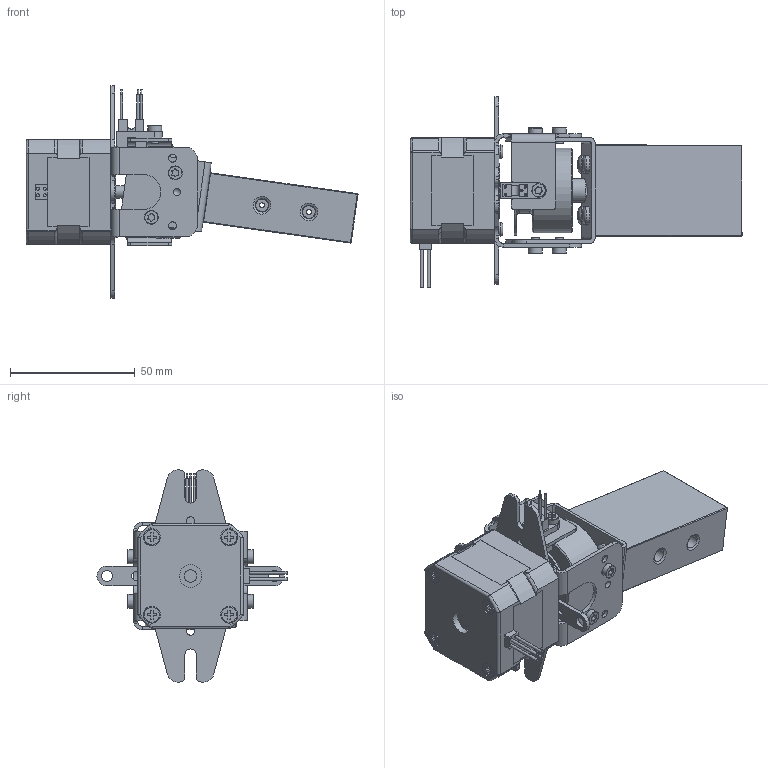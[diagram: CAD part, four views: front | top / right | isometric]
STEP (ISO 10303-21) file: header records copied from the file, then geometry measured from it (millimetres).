
FILE_DESCRIPTION (( 'STEP AP214' ), '1' );
FILE_NAME ('PD0023B1.STEP', '2017-03-07T22:22:41', ( '' ), ( '' ), 'SwSTEP 2.0', 'SolidWorks 2015', '' );
FILE_SCHEMA (( 'AUTOMOTIVE_DESIGN' ));
Length unit declared in the file: millimetre
Products named in the file (21): PD22-PA-0; PD22-EA-1; PD22-SC-2_SC0104; PD22-PA-3; PD22-SC-1_SC0112; PD22-CH-1B1; PD22-MB-1; Copy of BB0041^PD22-CH-1B1; PD22-MA-0; PD22-CP-1; PD22-PP-3; PD22-EA-0; PD0023B1; PD22-MB-0_Standard; PD03-SC-0; PD22-OS-0; PD22-SC-0_SC0111; PD22-DP-0; PD22-EL-0; PD22-MO-0; PD22-DE-0
Assembly tree (29 placements, depth 6):
  PD0023B1
    PD22-MA-0
      PD22-MB-0_Standard
      PD03-SC-0  x4
      PD22-OS-0
      PD22-SC-0_SC0111
      PD22-MO-0
      PD22-EA-0
        PD22-DE-0
        PD22-CP-1
    PD22-PP-3
      PD22-MB-1
      PD22-PA-3
        PD22-CH-1B1
          Copy of BB0041^PD22-CH-1B1
        PD22-PA-0
          PD22-EA-1
            PD22-EL-0
            PD22-DP-0
      PD22-SC-1_SC0112  x4
    PD22-SC-2_SC0104  x4
Bounding box: 133.04 x 76.15 x 85 mm (x, y, z)
Volume: 124556.1 mm3; surface area: 49408.6 mm2
Topology: 22 solids, 22 shells, 773 faces, 1919 edges, 1242 vertices
Faces by surface type: plane 353, cylinder 328, torus 35, cone 24, bspline 23, sphere 10
Full cylindrical faces by diameter (mm): 0.05 x2, 0.6 x5, 1 x5, 1.25 x4, 2 x4, 2.5 x10, 3 x5, 3.065 x2, 3.1 x4, 3.18 x1, 3.5 x12, 3.9 x4, 4.5 x2, 4.8 x2, 5 x3, 5.2 x1, 5.41 x4, 5.5 x9, 6 x4, 6.8 x4, 7 x6, 9 x1, 9.5 x1, 10 x1, 10.5 x1, 12 x2, 17 x1, 18 x1, 22 x1, 22.016 x1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
Entity records: 20909 total; most frequent: CARTESIAN_POINT 4821, DIRECTION 3141, ORIENTED_EDGE 2910, EDGE_CURVE 1455, AXIS2_PLACEMENT_3D 1170, VERTEX_POINT 1005, EDGE_LOOP 890, LINE 801
